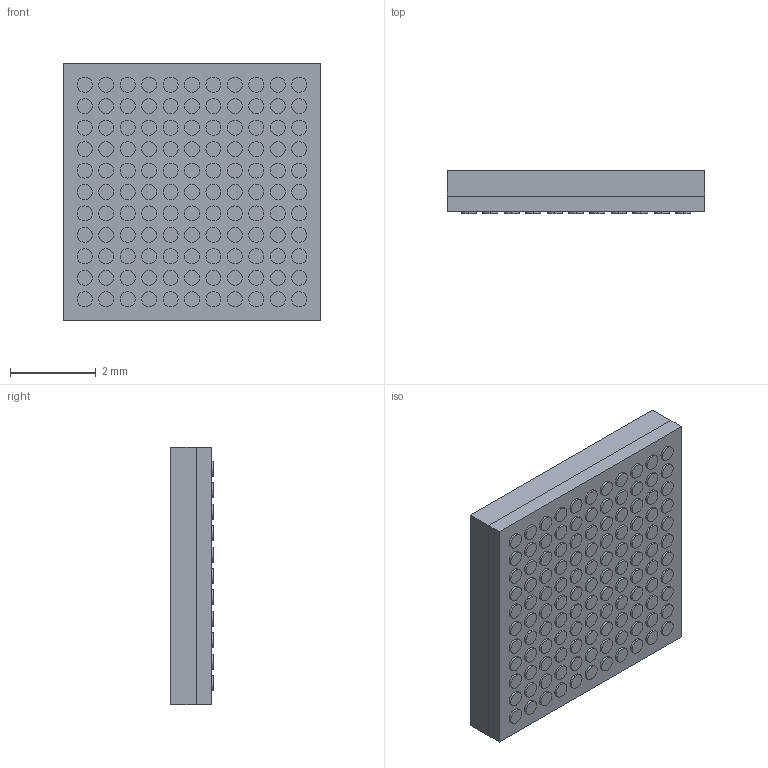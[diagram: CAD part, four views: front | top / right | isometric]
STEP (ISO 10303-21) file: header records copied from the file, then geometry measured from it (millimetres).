
FILE_DESCRIPTION (( 'STEP AP214' ), '1' );
FILE_NAME ( 'LGA121C50P11X11_600X600X100.STEP', '2014-04-11T12:31:19', ( '' ), ( '' ), 'FPX Expert 2013', 'PCB Libraries', '' );
FILE_SCHEMA (( 'AUTOMOTIVE_DESIGN' ));
Length unit declared in the file: millimetre
Products named in the file (1): LGA121C50P11X11_600X600X100
Bounding box: 6 x 1 x 6 mm (x, y, z)
Volume: 34.7 mm3; surface area: 196.8 mm2
Topology: 123 solids, 123 shells, 499 faces, 756 edges, 504 vertices
Faces by surface type: plane 255, cylinder 242, torus 2
Entity records: 13792 total; most frequent: DIRECTION 2246, CARTESIAN_POINT 1760, ORIENTED_EDGE 1512, AXIS2_PLACEMENT_3D 990, EDGE_CURVE 756, STYLED_ITEM 623, PRESENTATION_LAYER_ASSIGNMENT 623, MECHANICAL_DESIGN_GEOMETRIC_PRESENTATION_REPRESENTATION 623
